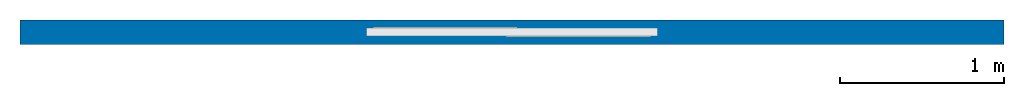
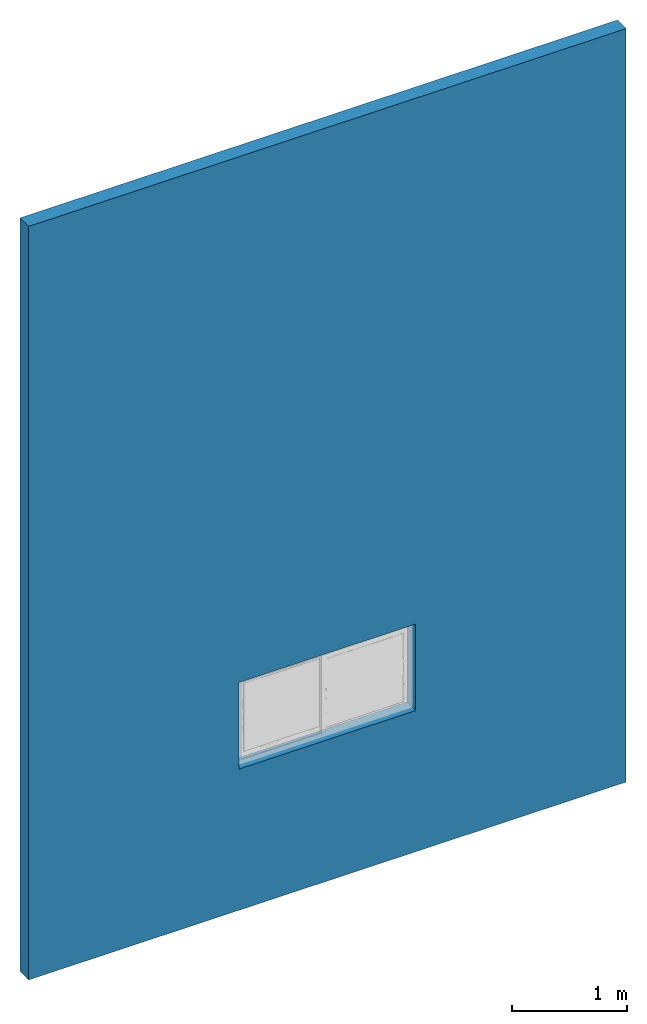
# One storey, incomplete: 1 wall, 1 opening.
"""IFC2X3 building model written with IfcOpenShell, lengths in millimetres."""

from ifc_helpers import new_model, entity, si_unit, converted_unit, derived_unit, direction, frame, frame_2d, origin, place, context, subcontext, project, spatial, rectangle, extrude, material, layer, layer_set, layer_usage, type_object, element, save


model = new_model("IFC2X3")

# Units and contexts
model_context = context("Model", 3, precision=0.01, world=origin(), true_north=direction((6.12303176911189e-17, 1.0)))
body_context = subcontext(model_context, "Body", "Model", "MODEL_VIEW")
ifc_project = project(units=[si_unit("LENGTHUNIT", "METRE", prefix="MILLI"), si_unit("AREAUNIT", "SQUARE_METRE"), si_unit("VOLUMEUNIT", "CUBIC_METRE"), converted_unit("PLANEANGLEUNIT", "DEGREE", entity("IfcRatioMeasure", 0.0174532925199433), si_unit("PLANEANGLEUNIT", "RADIAN"), dimensions=[0, 0, 0, 0, 0, 0, 0]), si_unit("MASSUNIT", "GRAM", prefix="KILO"), derived_unit("MASSDENSITYUNIT", [(si_unit("MASSUNIT", "GRAM", prefix="KILO"), 1), (si_unit("LENGTHUNIT", "METRE"), -3)]), si_unit("TIMEUNIT", "SECOND"), si_unit("FREQUENCYUNIT", "HERTZ"), si_unit("THERMODYNAMICTEMPERATUREUNIT", "DEGREE_CELSIUS"), derived_unit("THERMALTRANSMITTANCEUNIT", [(si_unit("MASSUNIT", "GRAM", prefix="KILO"), 1), (si_unit("THERMODYNAMICTEMPERATUREUNIT", "KELVIN"), -1), (si_unit("TIMEUNIT", "SECOND"), -3)]), derived_unit("VOLUMETRICFLOWRATEUNIT", [(si_unit("LENGTHUNIT", "METRE"), 3), (si_unit("TIMEUNIT", "SECOND"), -1)]), si_unit("ELECTRICCURRENTUNIT", "AMPERE"), si_unit("ELECTRICVOLTAGEUNIT", "VOLT"), si_unit("POWERUNIT", "WATT"), si_unit("FORCEUNIT", "NEWTON", prefix="KILO"), si_unit("ILLUMINANCEUNIT", "LUX"), si_unit("LUMINOUSFLUXUNIT", "LUMEN"), si_unit("LUMINOUSINTENSITYUNIT", "CANDELA"), derived_unit("USERDEFINED", [(si_unit("MASSUNIT", "GRAM", prefix="KILO"), -1), (si_unit("LENGTHUNIT", "METRE"), -2), (si_unit("TIMEUNIT", "SECOND"), 3), (si_unit("LUMINOUSFLUXUNIT", "LUMEN"), 1)]), derived_unit("LINEARVELOCITYUNIT", [(si_unit("LENGTHUNIT", "METRE"), 1), (si_unit("TIMEUNIT", "SECOND"), -1)]), si_unit("PRESSUREUNIT", "PASCAL"), derived_unit("USERDEFINED", [(si_unit("LENGTHUNIT", "METRE"), -2), (si_unit("MASSUNIT", "GRAM", prefix="KILO"), 1), (si_unit("TIMEUNIT", "SECOND"), -2)])], contexts=[model_context])

# Site, building, storey
site_placement = place(None, origin())
site = spatial("IfcSite", under=ifc_project, at=site_placement, Name="Default", CompositionType="ELEMENT")
building_placement = place(site_placement, origin())
building = spatial("IfcBuilding", under=site, at=building_placement, CompositionType="ELEMENT")
storey_placement = place(building_placement, origin())
storey = spatial("IfcBuildingStorey", under=building, at=storey_placement, Name="Nivel 1", CompositionType="ELEMENT", Elevation=0.0)

# Wall, opening
ifc_material = material(Name="Muro por defecto")
ifc_layer = layer(ifc_material, 150.0)
ifc_layer_set = layer_set([ifc_layer], Name="Muro básico:Genérico - 200 mm")
ifc_layer_usage = layer_usage(ifc_layer_set, "AXIS2", "NEGATIVE", 75.0)
wall_type = type_object("IfcWallType", Name="Muro básico:Genérico - 200 mm", PredefinedType="STANDARD", material=ifc_layer_set)
wall_placement = place(storey_placement, frame((-2628.76568665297, 279.280293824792, 0.0)))
wall = element("IfcWallStandardCase", 1, at=wall_placement, inside=storey, type_object=wall_type, material=ifc_layer_usage, Name="Muro básico:Genérico - 200 mm", ObjectType="Muro básico:Genérico - 200 mm:398", context=body_context, shape_type="SweptSolid", body=[
    extrude(rectangle(XDim=6000.0, YDim=150.0, at=frame_2d((3000.0, -7.105427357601e-15), x_axis=(-1.0, 0.0))), origin(), (0.0, 0.0, 1.0), 8000.0),
])
opening_placement = place(wall_placement, origin())
element("IfcOpeningElement", 2, at=opening_placement, cuts=wall, Name="Muro básico:Genérico - 200 mm", ObjectType="Opening", context=body_context, shape_type="SweptSolid", body=[
    extrude(rectangle(XDim=917.999999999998, YDim=1774.0, at=frame_2d((2.8421709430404e-13, 0.0), x_axis=(1.0, 0.0))), frame((3000.0, -1599.0, 1959.0), z_axis=(0.0, 1.0, 0.0), x_axis=(0.0, 0.0, 1.0)), (0.0, 0.0, 1.0), 3048.0),
])

save(model, "model.ifc")
